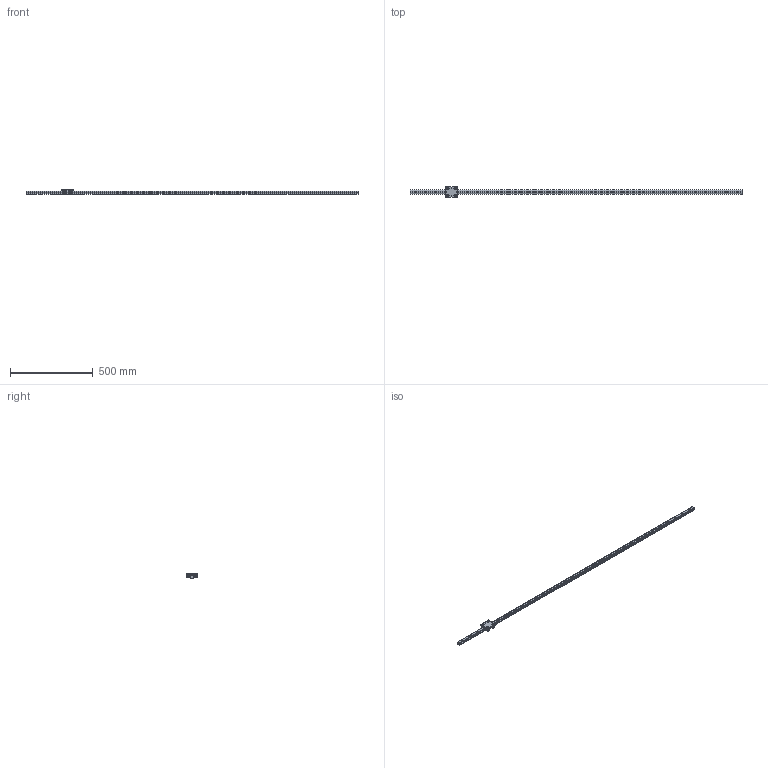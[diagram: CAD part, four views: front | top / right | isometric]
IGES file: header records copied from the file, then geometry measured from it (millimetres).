
Global section: file name: No Iges File Name specified; native system: AutoDesk Inventor R11.0; preprocessor: AutoDesk Inventor Iges Exporter R11.0; author: No Author specified; organization: No Organization specified; date: 20170718.164826; units: millimetre
Bounding box: 2000 x 65 x 25 mm (x, y, z)
Surface area: 191834.3 mm2 (no closed solid volume)
Topology: 0 solids, 0 shells, 363 faces, 2430 edges, 2430 vertices
Faces by surface type: bspline 363
